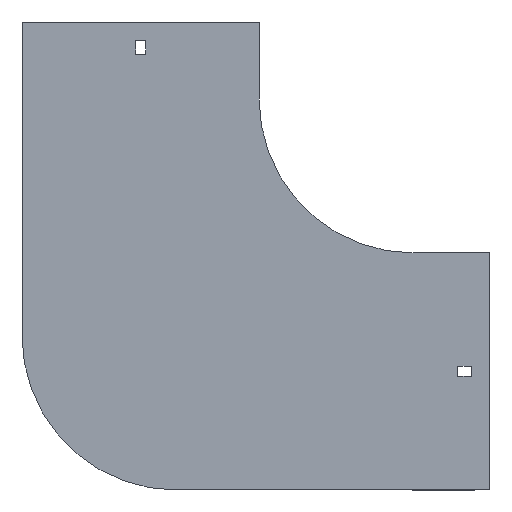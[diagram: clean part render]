
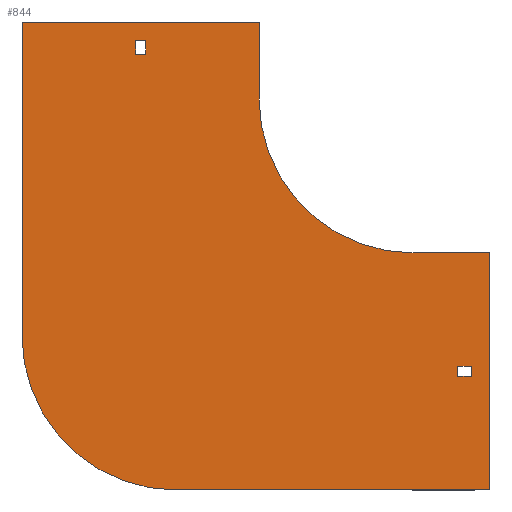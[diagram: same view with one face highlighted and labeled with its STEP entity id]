
A CAD part, front view. The second image highlights one B-rep face of the part: STEP entity #844.
In plain terms, the highlighted planar face has unit normal (0, -1, 0).
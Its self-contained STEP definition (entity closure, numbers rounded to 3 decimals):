
#11 = VERTEX_POINT ( 'NONE', #51 ) ;
#17 = CARTESIAN_POINT ( 'NONE',  ( 38., 0., -173.75 ) ) ;
#49 = EDGE_CURVE ( 'NONE', #1288, #517, #813, .T. ) ;
#51 = CARTESIAN_POINT ( 'NONE',  ( 50., 0., -100. ) ) ;
#71 = ORIENTED_EDGE ( 'NONE', *, *, #562, .T. ) ;
#82 = DIRECTION ( 'NONE',  ( 0., 0., 1. ) ) ;
#84 = VERTEX_POINT ( 'NONE', #1166 ) ;
#85 = VERTEX_POINT ( 'NONE', #170 ) ;
#110 = VERTEX_POINT ( 'NONE', #1002 ) ;
#128 = VERTEX_POINT ( 'NONE', #467 ) ;
#135 = DIRECTION ( 'NONE',  ( -1., 0., 0. ) ) ;
#141 = LINE ( 'NONE', #1109, #485 ) ;
#143 = EDGE_CURVE ( 'NONE', #1019, #825, #1329, .T. ) ;
#144 = EDGE_CURVE ( 'NONE', #84, #11, #1124, .T. ) ;
#162 = CARTESIAN_POINT ( 'NONE',  ( -180.25, 0., 29. ) ) ;
#163 = VECTOR ( 'NONE', #949, 1000. ) ;
#170 = CARTESIAN_POINT ( 'NONE',  ( -154., 0., -254. ) ) ;
#192 = DIRECTION ( 'NONE',  ( 0., -1., 0. ) ) ;
#198 = CARTESIAN_POINT ( 'NONE',  ( 29., 0., -180.25 ) ) ;
#203 = VECTOR ( 'NONE', #1079, 1000. ) ;
#219 = VECTOR ( 'NONE', #1127, 1000. ) ;
#221 = EDGE_LOOP ( 'NONE', ( #1331, #995, #525, #1280 ) ) ;
#234 = LINE ( 'NONE', #778, #601 ) ;
#243 = EDGE_CURVE ( 'NONE', #479, #530, #1063, .T. ) ;
#244 = VECTOR ( 'NONE', #968, 1000. ) ;
#251 = EDGE_CURVE ( 'NONE', #110, #631, #1386, .T. ) ;
#259 = ORIENTED_EDGE ( 'NONE', *, *, #143, .T. ) ;
#271 = AXIS2_PLACEMENT_3D ( 'NONE', #682, #696, #1119 ) ;
#283 = CARTESIAN_POINT ( 'NONE',  ( 0., 0., 0. ) ) ;
#303 = DIRECTION ( 'NONE',  ( 0., 0., 1. ) ) ;
#307 = CARTESIAN_POINT ( 'NONE',  ( 38., 0., -180.25 ) ) ;
#308 = VECTOR ( 'NONE', #82, 1000. ) ;
#317 = EDGE_CURVE ( 'NONE', #1300, #1366, #1098, .T. ) ;
#336 = CARTESIAN_POINT ( 'NONE',  ( 29., 0., -173.75 ) ) ;
#370 = VECTOR ( 'NONE', #303, 1000. ) ;
#379 = VECTOR ( 'NONE', #711, 1000. ) ;
#386 = EDGE_CURVE ( 'NONE', #128, #406, #401, .T. ) ;
#388 = CARTESIAN_POINT ( 'NONE',  ( -100., 0., 0. ) ) ;
#401 = LINE ( 'NONE', #198, #379 ) ;
#406 = VERTEX_POINT ( 'NONE', #307 ) ;
#423 = AXIS2_PLACEMENT_3D ( 'NONE', #1360, #486, #1273 ) ;
#439 = EDGE_CURVE ( 'NONE', #11, #1221, #1178, .T. ) ;
#453 = DIRECTION ( 'NONE',  ( 1., 0., 0. ) ) ;
#458 = DIRECTION ( 'NONE',  ( 1., 0., 0. ) ) ;
#467 = CARTESIAN_POINT ( 'NONE',  ( 29., 0., -180.25 ) ) ;
#468 = FACE_BOUND ( 'NONE', #919, .T. ) ;
#470 = CARTESIAN_POINT ( 'NONE',  ( 38., 0., -180.25 ) ) ;
#479 = VERTEX_POINT ( 'NONE', #707 ) ;
#485 = VECTOR ( 'NONE', #458, 1000. ) ;
#486 = DIRECTION ( 'NONE',  ( 0., 1., 0. ) ) ;
#490 = EDGE_CURVE ( 'NONE', #85, #110, #1268, .T. ) ;
#515 = CARTESIAN_POINT ( 'NONE',  ( -100., 0., 50. ) ) ;
#517 = VERTEX_POINT ( 'NONE', #1172 ) ;
#525 = ORIENTED_EDGE ( 'NONE', *, *, #1246, .F. ) ;
#530 = VERTEX_POINT ( 'NONE', #388 ) ;
#532 = EDGE_CURVE ( 'NONE', #530, #84, #979, .T. ) ;
#562 = EDGE_CURVE ( 'NONE', #517, #1019, #1157, .T. ) ;
#563 = CARTESIAN_POINT ( 'NONE',  ( 0., 0., -100. ) ) ;
#579 = CARTESIAN_POINT ( 'NONE',  ( 50., 0., -254. ) ) ;
#599 = DIRECTION ( 'NONE',  ( -1., 0., 0. ) ) ;
#601 = VECTOR ( 'NONE', #135, 1000. ) ;
#613 = DIRECTION ( 'NONE',  ( 0., 0., -1. ) ) ;
#631 = VERTEX_POINT ( 'NONE', #762 ) ;
#637 = EDGE_LOOP ( 'NONE', ( #660, #1097, #1114, #1117, #1094, #892, #997, #991 ) ) ;
#641 = CARTESIAN_POINT ( 'NONE',  ( -173.75, 0., 29. ) ) ;
#660 = ORIENTED_EDGE ( 'NONE', *, *, #1174, .F. ) ;
#673 = CARTESIAN_POINT ( 'NONE',  ( 29., 0., -180.25 ) ) ;
#682 = CARTESIAN_POINT ( 'NONE',  ( 0., 0., 0. ) ) ;
#696 = DIRECTION ( 'NONE',  ( 0., -1., 0. ) ) ;
#700 = DIRECTION ( 'NONE',  ( 1., 0., 0. ) ) ;
#707 = CARTESIAN_POINT ( 'NONE',  ( -100., 0., 50. ) ) ;
#711 = DIRECTION ( 'NONE',  ( 1., 0., 0. ) ) ;
#716 = VECTOR ( 'NONE', #1234, 1000. ) ;
#755 = AXIS2_PLACEMENT_3D ( 'NONE', #283, #192, #613 ) ;
#762 = CARTESIAN_POINT ( 'NONE',  ( -254., 0., 50. ) ) ;
#778 = CARTESIAN_POINT ( 'NONE',  ( 50., 0., -254. ) ) ;
#783 = ORIENTED_EDGE ( 'NONE', *, *, #49, .T. ) ;
#813 = LINE ( 'NONE', #162, #990 ) ;
#825 = VERTEX_POINT ( 'NONE', #901 ) ;
#830 = CARTESIAN_POINT ( 'NONE',  ( -254., 0., -154. ) ) ;
#844 = ADVANCED_FACE ( 'NONE', ( #468, #1003, #1346 ), #1342, .T. ) ;
#892 = ORIENTED_EDGE ( 'NONE', *, *, #144, .F. ) ;
#896 = VECTOR ( 'NONE', #700, 1000. ) ;
#899 = LINE ( 'NONE', #673, #716 ) ;
#901 = CARTESIAN_POINT ( 'NONE',  ( -173.75, 0., 38. ) ) ;
#909 = ORIENTED_EDGE ( 'NONE', *, *, #1050, .T. ) ;
#918 = CARTESIAN_POINT ( 'NONE',  ( 29., 0., -173.75 ) ) ;
#919 = EDGE_LOOP ( 'NONE', ( #71, #259, #909, #783 ) ) ;
#935 = VECTOR ( 'NONE', #984, 1000. ) ;
#949 = DIRECTION ( 'NONE',  ( 0., 0., -1. ) ) ;
#968 = DIRECTION ( 'NONE',  ( 0., 0., -1. ) ) ;
#979 = CIRCLE ( 'NONE', #755, 100. ) ;
#984 = DIRECTION ( 'NONE',  ( -1., 0., 0. ) ) ;
#990 = VECTOR ( 'NONE', #599, 1000. ) ;
#991 = ORIENTED_EDGE ( 'NONE', *, *, #243, .F. ) ;
#993 = LINE ( 'NONE', #470, #219 ) ;
#995 = ORIENTED_EDGE ( 'NONE', *, *, #386, .F. ) ;
#997 = ORIENTED_EDGE ( 'NONE', *, *, #532, .F. ) ;
#1002 = CARTESIAN_POINT ( 'NONE',  ( -254., 0., -154. ) ) ;
#1003 = FACE_OUTER_BOUND ( 'NONE', #637, .T. ) ;
#1019 = VERTEX_POINT ( 'NONE', #1046 ) ;
#1046 = CARTESIAN_POINT ( 'NONE',  ( -180.25, 0., 38. ) ) ;
#1050 = EDGE_CURVE ( 'NONE', #825, #1288, #1391, .T. ) ;
#1063 = LINE ( 'NONE', #515, #163 ) ;
#1079 = DIRECTION ( 'NONE',  ( 0., 0., -1. ) ) ;
#1085 = VECTOR ( 'NONE', #453, 1000. ) ;
#1094 = ORIENTED_EDGE ( 'NONE', *, *, #439, .F. ) ;
#1097 = ORIENTED_EDGE ( 'NONE', *, *, #251, .F. ) ;
#1098 = LINE ( 'NONE', #336, #935 ) ;
#1109 = CARTESIAN_POINT ( 'NONE',  ( -254., 0., 50. ) ) ;
#1114 = ORIENTED_EDGE ( 'NONE', *, *, #490, .F. ) ;
#1117 = ORIENTED_EDGE ( 'NONE', *, *, #1277, .F. ) ;
#1119 = DIRECTION ( 'NONE',  ( 0., 0., -1. ) ) ;
#1124 = LINE ( 'NONE', #563, #1085 ) ;
#1127 = DIRECTION ( 'NONE',  ( 0., 0., 1. ) ) ;
#1131 = CARTESIAN_POINT ( 'NONE',  ( -173.75, 0., 29. ) ) ;
#1157 = LINE ( 'NONE', #1373, #370 ) ;
#1166 = CARTESIAN_POINT ( 'NONE',  ( 0., 0., -100. ) ) ;
#1172 = CARTESIAN_POINT ( 'NONE',  ( -180.25, 0., 29. ) ) ;
#1174 = EDGE_CURVE ( 'NONE', #631, #479, #141, .T. ) ;
#1178 = LINE ( 'NONE', #1285, #203 ) ;
#1221 = VERTEX_POINT ( 'NONE', #579 ) ;
#1234 = DIRECTION ( 'NONE',  ( 0., 0., -1. ) ) ;
#1246 = EDGE_CURVE ( 'NONE', #1366, #128, #899, .T. ) ;
#1261 = EDGE_CURVE ( 'NONE', #406, #1300, #993, .T. ) ;
#1268 = CIRCLE ( 'NONE', #423, 100. ) ;
#1273 = DIRECTION ( 'NONE',  ( 0., 0., 1. ) ) ;
#1277 = EDGE_CURVE ( 'NONE', #1221, #85, #234, .T. ) ;
#1280 = ORIENTED_EDGE ( 'NONE', *, *, #317, .F. ) ;
#1285 = CARTESIAN_POINT ( 'NONE',  ( 50., 0., -100. ) ) ;
#1288 = VERTEX_POINT ( 'NONE', #1131 ) ;
#1300 = VERTEX_POINT ( 'NONE', #17 ) ;
#1329 = LINE ( 'NONE', #1341, #896 ) ;
#1331 = ORIENTED_EDGE ( 'NONE', *, *, #1261, .F. ) ;
#1341 = CARTESIAN_POINT ( 'NONE',  ( -180.25, 0., 38. ) ) ;
#1342 = PLANE ( 'NONE',  #271 ) ;
#1346 = FACE_BOUND ( 'NONE', #221, .T. ) ;
#1360 = CARTESIAN_POINT ( 'NONE',  ( -154., 0., -154. ) ) ;
#1366 = VERTEX_POINT ( 'NONE', #918 ) ;
#1373 = CARTESIAN_POINT ( 'NONE',  ( -180.25, 0., 29. ) ) ;
#1386 = LINE ( 'NONE', #830, #308 ) ;
#1391 = LINE ( 'NONE', #641, #244 ) ;
